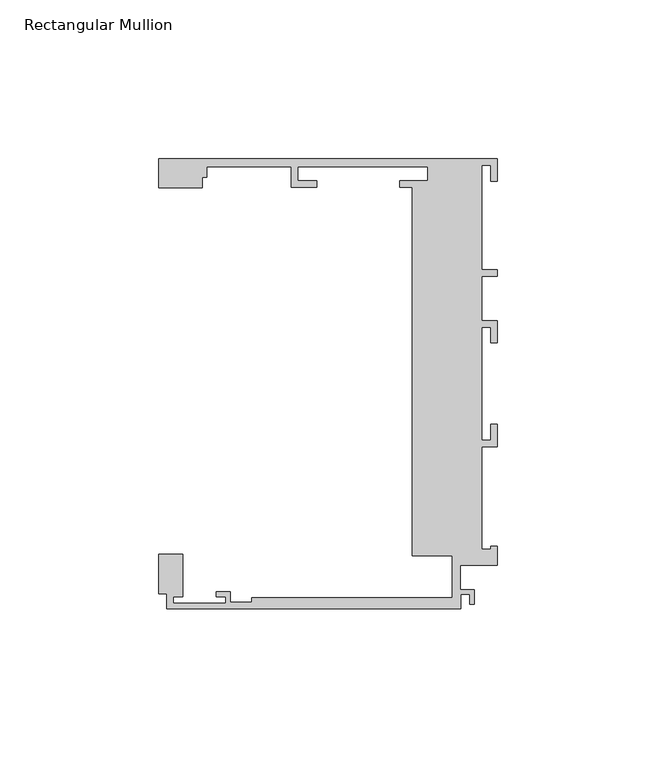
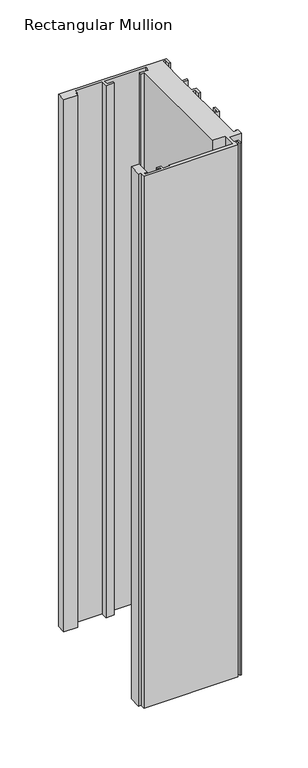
"""IFC4 building model written with IfcOpenShell, lengths in millimetres: member geometry, Rectangular Mullion : Danpal_K12_End-Mullion_B1."""

from ifc_helpers import new_model, si_unit, frame, origin, place, context, project, spatial, polyline, outline, extrude, source, transform, mapped, element, save


def rectangular_mullion_b986652d(model_context):
    return source(origin(), model_context, "Body", "SweptSolid", [
        extrude(outline(polyline([(-26.6209612, 117.8676658), (-30.6, 117.8676658), (-30.6, 119.8676658), (-21.835, 119.8676658), (-21.835, 124.2676658), (-62.7350275, 124.2676658), (-62.7350275, 119.8676658), (-56.7350275, 119.8676658), (-56.7350275, 117.8676658), (-64.7350275, 117.8676658), (-64.7350275, 124.2676658), (-91.2900275, 124.2676658), (-91.2900275, 121.0676175), (-92.8228167, 121.0676175), (-92.8228167, 117.6986749), (-106.4117426, 117.6986749), (-106.4117426, 126.7676657), (0.0, 126.7676657), (0.0, 119.7676657), (-2.0, 119.7676657), (-2.0, 124.7676657), (-4.8, 124.7676657), (-4.8, 91.8676485), (0.0, 91.8676485), (0.0, 89.8676485), (-4.8, 89.8676485), (-4.8, 75.867683), (0.0, 75.867683), (0.0, 68.8676657), (-2.0, 68.8676657), (-2.0, 73.8676657), (-4.8, 73.8676657), (-4.8, 38.2443486), (-2.0, 38.2443486), (-2.0, 43.2443486), (0.0, 43.2443486), (0.0, 36.2443486), (-4.8, 36.2443486), (-4.8, 3.9448486), (-2.0, 3.9448486), (-2.0, 4.9448486), (0.0, 4.9448486), (0.0, -1.0551514), (-11.6055875, -1.0551514), (-11.6055875, -8.8006425), (-7.1518595, -8.8006425), (-7.1518595, -13.3051514), (-8.6518595, -13.3051514), (-8.6518595, -10.3006425), (-11.4019537, -10.3006425), (-11.4019537, -14.8051514), (-103.8999976, -14.8051514), (-103.8999976, -10.065304), (-106.4117426, -10.065304), (-106.4117426, 2.316674), (-98.8999976, 2.316674), (-98.8999976, -11.0051513), (-101.8999976, -11.0051513), (-101.8999976, -13.0051512), (-85.3999976, -13.0051512), (-85.3999976, -11.0051513), (-88.3999976, -11.0051513), (-88.3999976, -9.5051512), (-83.8999976, -9.5051512), (-83.8999976, -12.8051513), (-77.1531178, -12.8051513), (-77.1531178, -11.3051512), (-14.1055875, -11.3051512), (-14.1055875, 1.9446289), (-26.6209612, 1.9446289), (-26.6209612, 117.8676658)])), frame((0.0, 0.0, -554.2059038), z_axis=(0.0, 0.0, 1.0), x_axis=(1.0, 0.0, 0.0)), (0.0, 0.0, 1.0), 554.2059038),
    ])


if __name__ == "__main__":
    model = new_model("IFC4")
    model_context = context("Model", 3, world=origin())
    ifc_project = project(units=[si_unit("LENGTHUNIT", "METRE", prefix="MILLI")], contexts=[model_context])
    site = spatial("IfcSite", under=ifc_project)
    building = spatial("IfcBuilding", under=site)
    placement = place(None, origin())
    rectangular_mullion_shape = rectangular_mullion_b986652d(model_context)
    element("IfcMember", 1, ObjectType="Rectangular Mullion : Danpal_K12_End-Mullion_B1", at=placement, inside=building, context=model_context, shape_type="MappedRepresentation", body=[
        mapped(rectangular_mullion_shape, transform((0.0, 0.0, 0.0), x_axis=(1.0, 0.0, 0.0), y_axis=(0.0, 1.0, 0.0), z_axis=(0.0, 0.0, 1.0))),
    ])
    save(model, "model.ifc")
